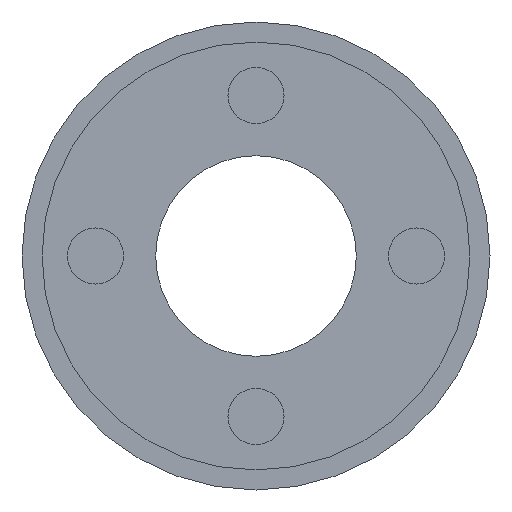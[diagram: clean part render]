
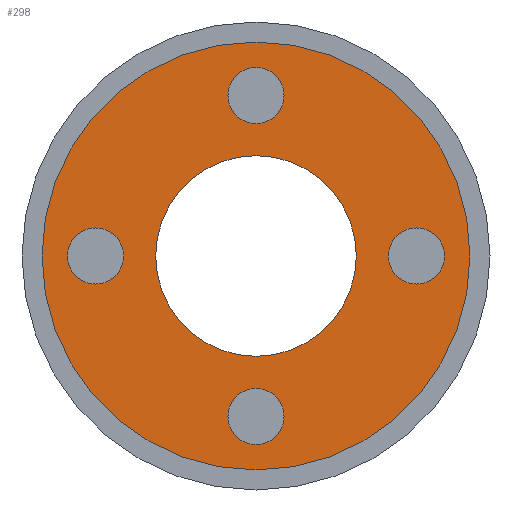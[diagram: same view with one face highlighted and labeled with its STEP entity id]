
A CAD part, left-side view. The second image highlights one B-rep face of the part: STEP entity #298.
In plain terms, the highlighted planar face has unit normal (-1, 0, 0).
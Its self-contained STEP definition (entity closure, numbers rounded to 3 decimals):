
#166 = EDGE_CURVE ( 'NONE', #167, #168, #907, .T. ) ;
#167 = VERTEX_POINT ( 'NONE', #898 ) ;
#168 = VERTEX_POINT ( 'NONE', #897 ) ;
#169 = EDGE_CURVE ( 'NONE', #170, #171, #896, .T. ) ;
#170 = VERTEX_POINT ( 'NONE', #891 ) ;
#171 = VERTEX_POINT ( 'NONE', #890 ) ;
#216 = EDGE_CURVE ( 'NONE', #217, #218, #992, .T. ) ;
#217 = VERTEX_POINT ( 'NONE', #988 ) ;
#218 = VERTEX_POINT ( 'NONE', #987 ) ;
#254 = EDGE_CURVE ( 'NONE', #255, #256, #1055, .T. ) ;
#255 = VERTEX_POINT ( 'NONE', #1051 ) ;
#256 = VERTEX_POINT ( 'NONE', #1050 ) ;
#270 = EDGE_CURVE ( 'NONE', #271, #272, #1089, .T. ) ;
#271 = VERTEX_POINT ( 'NONE', #1080 ) ;
#272 = VERTEX_POINT ( 'NONE', #1079 ) ;
#284 = ORIENTED_EDGE ( 'NONE', *, *, #254, .F. ) ;
#287 = EDGE_CURVE ( 'NONE', #288, #289, #1177, .T. ) ;
#288 = VERTEX_POINT ( 'NONE', #1172 ) ;
#289 = VERTEX_POINT ( 'NONE', #1171 ) ;
#298 = ADVANCED_FACE ( 'NONE', ( #1155, #1154, #1153, #1152, #1151, #1150 ), #1149, .T. ) ;
#299 = EDGE_LOOP ( 'NONE', ( #350, #352 ) ) ;
#337 = ORIENTED_EDGE ( 'NONE', *, *, #338, .F. ) ;
#338 = EDGE_CURVE ( 'NONE', #256, #255, #1265, .T. ) ;
#339 = EDGE_LOOP ( 'NONE', ( #340, #342 ) ) ;
#340 = ORIENTED_EDGE ( 'NONE', *, *, #341, .T. ) ;
#341 = EDGE_CURVE ( 'NONE', #289, #288, #1260, .T. ) ;
#342 = ORIENTED_EDGE ( 'NONE', *, *, #287, .T. ) ;
#343 = EDGE_LOOP ( 'NONE', ( #344, #346 ) ) ;
#344 = ORIENTED_EDGE ( 'NONE', *, *, #345, .T. ) ;
#345 = EDGE_CURVE ( 'NONE', #272, #271, #1255, .T. ) ;
#346 = ORIENTED_EDGE ( 'NONE', *, *, #270, .T. ) ;
#350 = ORIENTED_EDGE ( 'NONE', *, *, #351, .T. ) ;
#351 = EDGE_CURVE ( 'NONE', #171, #170, #1243, .T. ) ;
#352 = ORIENTED_EDGE ( 'NONE', *, *, #169, .T. ) ;
#353 = EDGE_LOOP ( 'NONE', ( #354, #356 ) ) ;
#354 = ORIENTED_EDGE ( 'NONE', *, *, #355, .T. ) ;
#355 = EDGE_CURVE ( 'NONE', #168, #167, #1301, .T. ) ;
#356 = ORIENTED_EDGE ( 'NONE', *, *, #166, .T. ) ;
#357 = EDGE_LOOP ( 'NONE', ( #358, #360 ) ) ;
#358 = ORIENTED_EDGE ( 'NONE', *, *, #359, .T. ) ;
#359 = EDGE_CURVE ( 'NONE', #218, #217, #1296, .T. ) ;
#360 = ORIENTED_EDGE ( 'NONE', *, *, #216, .T. ) ;
#361 = EDGE_LOOP ( 'NONE', ( #284, #337 ) ) ;
#890 = CARTESIAN_POINT ( 'NONE',  ( -21., 0., 9.9 ) ) ;
#891 = CARTESIAN_POINT ( 'NONE',  ( -21., 0., 14.1 ) ) ;
#892 = DIRECTION ( 'NONE',  ( 0., 0., 1. ) ) ;
#893 = DIRECTION ( 'NONE',  ( 1., 0., 0. ) ) ;
#894 = CARTESIAN_POINT ( 'NONE',  ( -21., 0., 12. ) ) ;
#895 = AXIS2_PLACEMENT_3D ( 'NONE', #894, #893, #892 ) ;
#896 = CIRCLE ( 'NONE', #895, 2.1 ) ;
#897 = CARTESIAN_POINT ( 'NONE',  ( -21., -12., -2.1 ) ) ;
#898 = CARTESIAN_POINT ( 'NONE',  ( -21., -12., 2.1 ) ) ;
#899 = DIRECTION ( 'NONE',  ( 0., 0., 1. ) ) ;
#900 = DIRECTION ( 'NONE',  ( 1., 0., 0. ) ) ;
#901 = CARTESIAN_POINT ( 'NONE',  ( -21., -12., 0. ) ) ;
#902 = AXIS2_PLACEMENT_3D ( 'NONE', #901, #900, #899 ) ;
#907 = CIRCLE ( 'NONE', #902, 2.1 ) ;
#987 = CARTESIAN_POINT ( 'NONE',  ( -21., 0., -14.1 ) ) ;
#988 = CARTESIAN_POINT ( 'NONE',  ( -21., 0., -9.9 ) ) ;
#989 = DIRECTION ( 'NONE',  ( 0., 0., 1. ) ) ;
#990 = DIRECTION ( 'NONE',  ( 1., 0., 0. ) ) ;
#991 = AXIS2_PLACEMENT_3D ( 'NONE', #998, #990, #989 ) ;
#992 = CIRCLE ( 'NONE', #991, 2.1 ) ;
#998 = CARTESIAN_POINT ( 'NONE',  ( -21., 0., -12. ) ) ;
#1050 = CARTESIAN_POINT ( 'NONE',  ( -21., 0., 16. ) ) ;
#1051 = CARTESIAN_POINT ( 'NONE',  ( -21., 0., -16. ) ) ;
#1052 = DIRECTION ( 'NONE',  ( 0., 0., -1. ) ) ;
#1053 = DIRECTION ( 'NONE',  ( 1., 0., 0. ) ) ;
#1054 = AXIS2_PLACEMENT_3D ( 'NONE', #1061, #1053, #1052 ) ;
#1055 = CIRCLE ( 'NONE', #1054, 16. ) ;
#1061 = CARTESIAN_POINT ( 'NONE',  ( -21., 0., 0. ) ) ;
#1079 = CARTESIAN_POINT ( 'NONE',  ( -21., 12., -2.1 ) ) ;
#1080 = CARTESIAN_POINT ( 'NONE',  ( -21., 12., 2.1 ) ) ;
#1081 = DIRECTION ( 'NONE',  ( 0., 0., 1. ) ) ;
#1082 = DIRECTION ( 'NONE',  ( 1., 0., 0. ) ) ;
#1083 = CARTESIAN_POINT ( 'NONE',  ( -21., 12., 0. ) ) ;
#1084 = AXIS2_PLACEMENT_3D ( 'NONE', #1083, #1082, #1081 ) ;
#1089 = CIRCLE ( 'NONE', #1084, 2.1 ) ;
#1145 = DIRECTION ( 'NONE',  ( 0., 0., 1. ) ) ;
#1146 = DIRECTION ( 'NONE',  ( -1., 0., 0. ) ) ;
#1147 = CARTESIAN_POINT ( 'NONE',  ( -21., 16., 0. ) ) ;
#1148 = AXIS2_PLACEMENT_3D ( 'NONE', #1147, #1146, #1145 ) ;
#1149 = PLANE ( 'NONE',  #1148 ) ;
#1150 = FACE_BOUND ( 'NONE', #343, .T. ) ;
#1151 = FACE_BOUND ( 'NONE', #339, .T. ) ;
#1152 = FACE_OUTER_BOUND ( 'NONE', #361, .T. ) ;
#1153 = FACE_BOUND ( 'NONE', #357, .T. ) ;
#1154 = FACE_BOUND ( 'NONE', #353, .T. ) ;
#1155 = FACE_BOUND ( 'NONE', #299, .T. ) ;
#1171 = CARTESIAN_POINT ( 'NONE',  ( -21., 0., -7.5 ) ) ;
#1172 = CARTESIAN_POINT ( 'NONE',  ( -21., 0., 7.5 ) ) ;
#1173 = DIRECTION ( 'NONE',  ( 0., 0., -1. ) ) ;
#1174 = DIRECTION ( 'NONE',  ( 1., 0., 0. ) ) ;
#1175 = CARTESIAN_POINT ( 'NONE',  ( -21., 0., 0. ) ) ;
#1176 = AXIS2_PLACEMENT_3D ( 'NONE', #1175, #1174, #1173 ) ;
#1177 = CIRCLE ( 'NONE', #1176, 7.5 ) ;
#1243 = CIRCLE ( 'NONE', #1304, 2.1 ) ;
#1248 = CARTESIAN_POINT ( 'NONE',  ( -21., 0., 12. ) ) ;
#1251 = DIRECTION ( 'NONE',  ( 0., 0., 1. ) ) ;
#1252 = DIRECTION ( 'NONE',  ( 1., 0., 0. ) ) ;
#1253 = CARTESIAN_POINT ( 'NONE',  ( -21., 12., 0. ) ) ;
#1254 = AXIS2_PLACEMENT_3D ( 'NONE', #1253, #1252, #1251 ) ;
#1255 = CIRCLE ( 'NONE', #1254, 2.1 ) ;
#1256 = DIRECTION ( 'NONE',  ( 0., 0., -1. ) ) ;
#1257 = DIRECTION ( 'NONE',  ( 1., 0., 0. ) ) ;
#1258 = CARTESIAN_POINT ( 'NONE',  ( -21., 0., 0. ) ) ;
#1259 = AXIS2_PLACEMENT_3D ( 'NONE', #1258, #1257, #1256 ) ;
#1260 = CIRCLE ( 'NONE', #1259, 7.5 ) ;
#1261 = DIRECTION ( 'NONE',  ( 0., 0., -1. ) ) ;
#1262 = DIRECTION ( 'NONE',  ( 1., 0., 0. ) ) ;
#1263 = CARTESIAN_POINT ( 'NONE',  ( -21., 0., 0. ) ) ;
#1264 = AXIS2_PLACEMENT_3D ( 'NONE', #1263, #1262, #1261 ) ;
#1265 = CIRCLE ( 'NONE', #1264, 16. ) ;
#1292 = DIRECTION ( 'NONE',  ( 0., 0., 1. ) ) ;
#1293 = DIRECTION ( 'NONE',  ( 1., 0., 0. ) ) ;
#1294 = CARTESIAN_POINT ( 'NONE',  ( -21., 0., -12. ) ) ;
#1295 = AXIS2_PLACEMENT_3D ( 'NONE', #1294, #1293, #1292 ) ;
#1296 = CIRCLE ( 'NONE', #1295, 2.1 ) ;
#1297 = DIRECTION ( 'NONE',  ( 0., 0., 1. ) ) ;
#1298 = DIRECTION ( 'NONE',  ( 1., 0., 0. ) ) ;
#1299 = CARTESIAN_POINT ( 'NONE',  ( -21., -12., 0. ) ) ;
#1300 = AXIS2_PLACEMENT_3D ( 'NONE', #1299, #1298, #1297 ) ;
#1301 = CIRCLE ( 'NONE', #1300, 2.1 ) ;
#1302 = DIRECTION ( 'NONE',  ( 0., 0., 1. ) ) ;
#1303 = DIRECTION ( 'NONE',  ( 1., 0., 0. ) ) ;
#1304 = AXIS2_PLACEMENT_3D ( 'NONE', #1248, #1303, #1302 ) ;
